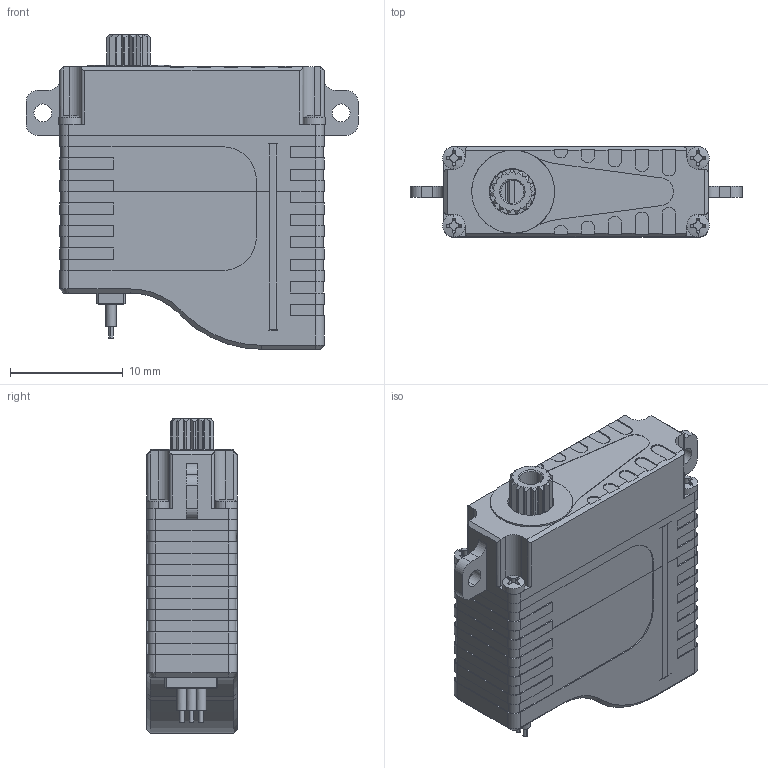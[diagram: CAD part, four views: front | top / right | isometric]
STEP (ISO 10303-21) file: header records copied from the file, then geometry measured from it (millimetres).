
FILE_DESCRIPTION (( 'STEP AP214' ), '1' );
FILE_NAME ('HS08A_DM_20230511.STEP', '2023-05-11T02:30:43', ( '' ), ( '' ), 'SwSTEP 2.0', 'SolidWorks 2016', '' );
FILE_SCHEMA (( 'AUTOMOTIVE_DESIGN' ));
Length unit declared in the file: millimetre
Products named in the file (1): HS08A_DM_20230511
Bounding box: 29.5 x 8 x 27.95 mm (x, y, z)
Surface area: 2925 mm2 (no closed solid volume)
Topology: 0 solids, 13 shells, 551 faces, 1736 edges, 1177 vertices
Faces by surface type: plane 318, cylinder 199, cone 26, sphere 8
Entity records: 25590 total; most frequent: CARTESIAN_POINT 3899, DIRECTION 3282, ORIENTED_EDGE 3246, EDGE_CURVE 1736, VERTEX_POINT 1177, LINE 1098, VECTOR 1098, AXIS2_PLACEMENT_3D 1092
